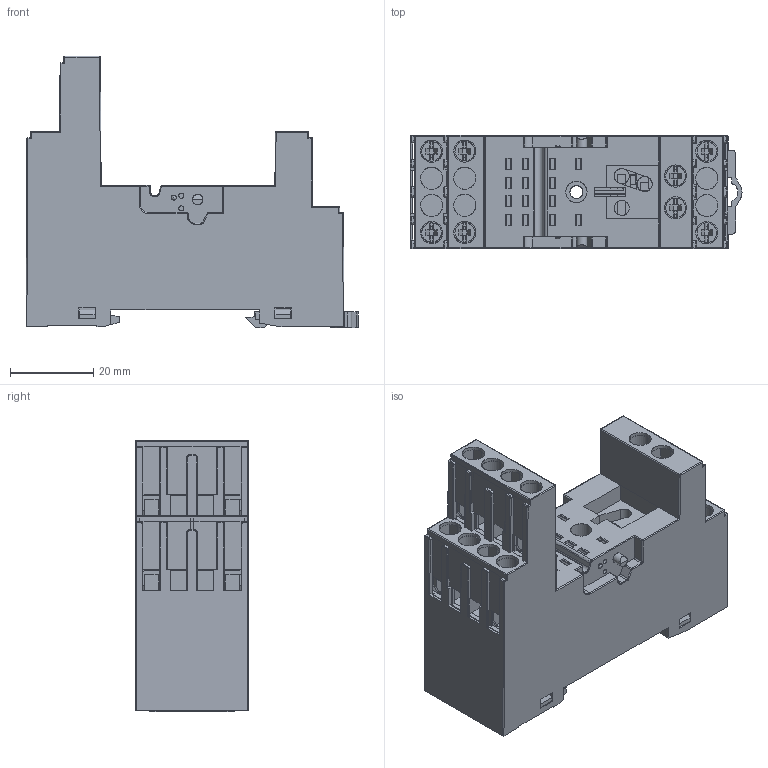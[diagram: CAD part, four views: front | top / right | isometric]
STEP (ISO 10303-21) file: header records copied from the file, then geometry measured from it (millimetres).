
FILE_DESCRIPTION(('STEP AP214'),'2;1');
FILE_NAME('94823.stp','2011-12-13T12:23:32',(''),(''),'2007.1.106','THINKDESIGN','');
FILE_SCHEMA(('AUTOMOTIVE_DESIGN'));
Products named in the file (1): None
Bounding box: 79.56 x 27 x 65.05 mm (x, y, z)
Surface area: 33045.7 mm2 (no closed solid volume)
Topology: 0 solids, 0 shells, 1103 faces, 6409 edges, 6348 vertices
Faces by surface type: plane 711, cylinder 266, bspline 126
Full cylindrical faces by diameter (mm): 1.2 x6, 2.5 x2, 3.1 x1, 3.6 x3, 4.6 x1, 4.7 x8, 5.1 x1, 5.3 x14, 5.4 x1
Entity records: 68485 total; most frequent: CARTESIAN_POINT 23575, DIRECTION 7675, COMPOSITE_CURVE_SEGMENT 6383, TRIMMED_CURVE 5242, VECTOR 4863, LINE 4863, AXIS2_PLACEMENT_3D 1406, OUTER_BOUNDARY_CURVE 1103
